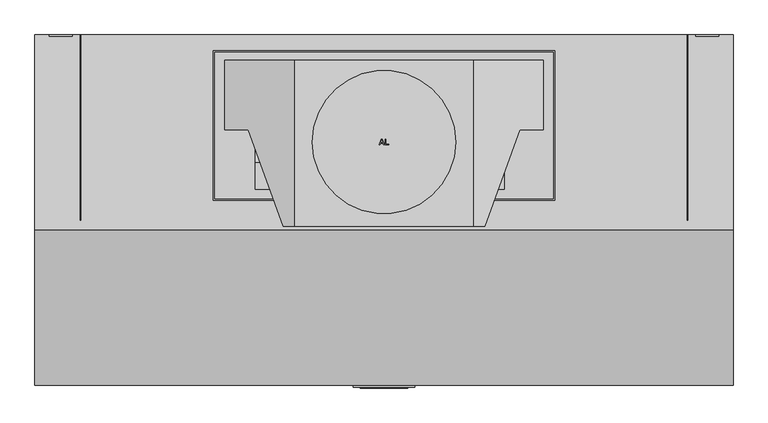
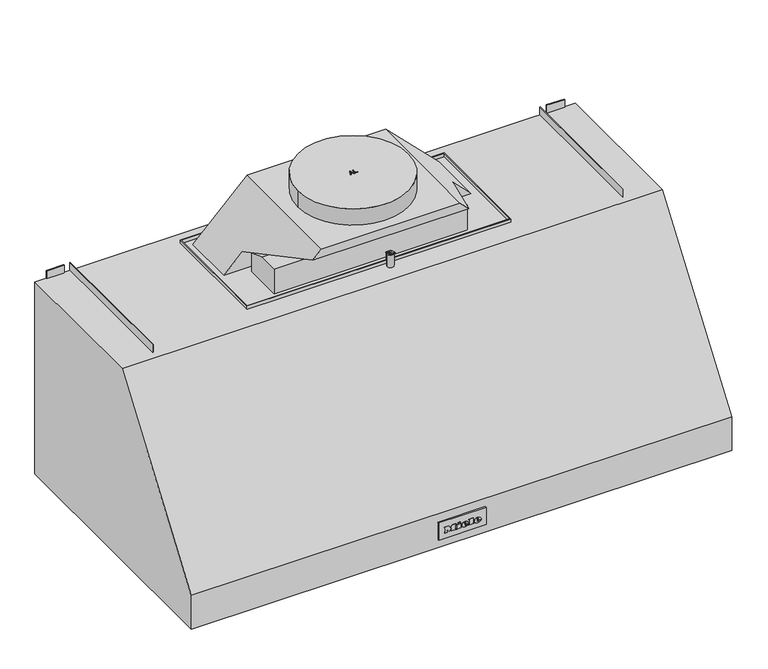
"""IFC4 building model written with IfcOpenShell, lengths in millimetres: proxy geometry, 11898190_USA_DAR1250-3_EDST : 28125051_USA_11898190_DAR1250-3_EDST."""

from ifc_helpers import new_model, si_unit, point, frame, frame_2d, origin, origin_with_axes, place, context, project, spatial, polyline, circle_curve, ellipse_curve, trimmed, segment, composite_curve, outline, extrude, faceted_brep, source, transform, mapped, element, save
from ifc_brep_helpers import plane_surface, cylinder_surface, revolved_surface, extruded_surface, advanced_brep


def specialty_equipment_2762908c(model_context):
    return source(origin(), model_context, "Body", "SolidModel", [
        extrude(outline(composite_curve([segment(trimmed(circle_curve(frame_2d((450.0, -510.0)), 27.5), [point((477.5, -510.0))], [point((422.5, -510.0))], False, "CARTESIAN"), True, "CONTINUOUS"), segment(trimmed(circle_curve(frame_2d((450.0, -510.0)), 27.5), [point((422.5, -510.0))], [point((477.5, -510.0))], False, "CARTESIAN"), True, "CONTINUOUS")], self_intersect=False)), origin_with_axes(), (0.0, 0.0, 1.0), 2.0),
        extrude(outline(composite_curve([segment(trimmed(circle_curve(frame_2d((-450.0, -510.0)), 27.5), [point((-422.5, -510.0))], [point((-477.5, -510.0))], False, "CARTESIAN"), True, "CONTINUOUS"), segment(trimmed(circle_curve(frame_2d((-450.0, -510.0)), 27.5), [point((-477.5, -510.0))], [point((-422.5, -510.0))], False, "CARTESIAN"), True, "CONTINUOUS")], self_intersect=False)), origin_with_axes(), (0.0, 0.0, 1.0), 2.0),
        extrude(outline(composite_curve([segment(trimmed(circle_curve(frame_2d((-450.0, -510.0)), 28.5), [point((-421.5, -510.0))], [point((-478.5, -510.0))], False, "CARTESIAN"), True, "CONTINUOUS"), segment(trimmed(circle_curve(frame_2d((-450.0, -510.0)), 28.5), [point((-478.5, -510.0))], [point((-421.5, -510.0))], False, "CARTESIAN"), True, "CONTINUOUS")], self_intersect=False), holes=[composite_curve([segment(trimmed(circle_curve(frame_2d((-450.0, -510.0)), 27.5), [point((-422.5, -510.0))], [point((-477.5, -510.0))], True, "CARTESIAN"), True, "CONTINUOUS"), segment(trimmed(circle_curve(frame_2d((-450.0, -510.0)), 27.5), [point((-477.5, -510.0))], [point((-422.5, -510.0))], True, "CARTESIAN"), True, "CONTINUOUS")], self_intersect=False)]), origin_with_axes(), (0.0, 0.0, 1.0), 2.0),
        extrude(outline(composite_curve([segment(trimmed(circle_curve(frame_2d((450.0, -510.0)), 28.5), [point((478.5, -510.0))], [point((421.5, -510.0))], False, "CARTESIAN"), True, "CONTINUOUS"), segment(trimmed(circle_curve(frame_2d((450.0, -510.0)), 28.5), [point((421.5, -510.0))], [point((478.5, -510.0))], False, "CARTESIAN"), True, "CONTINUOUS")], self_intersect=False), holes=[composite_curve([segment(trimmed(circle_curve(frame_2d((450.0, -510.0)), 27.5), [point((477.5, -510.0))], [point((422.5, -510.0))], True, "CARTESIAN"), True, "CONTINUOUS"), segment(trimmed(circle_curve(frame_2d((450.0, -510.0)), 27.5), [point((422.5, -510.0))], [point((477.5, -510.0))], True, "CARTESIAN"), True, "CONTINUOUS")], self_intersect=False)]), origin_with_axes(), (0.0, 0.0, 1.0), 2.0),
        extrude(outline(composite_curve([segment(trimmed(circle_curve(frame_2d((-150.0, -510.0)), 27.5), [point((-122.5, -510.0))], [point((-177.5, -510.0))], False, "CARTESIAN"), True, "CONTINUOUS"), segment(trimmed(circle_curve(frame_2d((-150.0, -510.0)), 27.5), [point((-177.5, -510.0))], [point((-122.5, -510.0))], False, "CARTESIAN"), True, "CONTINUOUS")], self_intersect=False)), origin_with_axes(), (0.0, 0.0, 1.0), 2.0),
        extrude(outline(composite_curve([segment(trimmed(circle_curve(frame_2d((150.0, -510.0)), 27.5), [point((177.5, -510.0))], [point((122.5, -510.0))], False, "CARTESIAN"), True, "CONTINUOUS"), segment(trimmed(circle_curve(frame_2d((150.0, -510.0)), 27.5), [point((122.5, -510.0))], [point((177.5, -510.0))], False, "CARTESIAN"), True, "CONTINUOUS")], self_intersect=False)), origin_with_axes(), (0.0, 0.0, 1.0), 2.0),
        extrude(outline(composite_curve([segment(trimmed(circle_curve(frame_2d((-150.0, -510.0)), 28.5), [point((-121.5, -510.0))], [point((-178.5, -510.0))], False, "CARTESIAN"), True, "CONTINUOUS"), segment(trimmed(circle_curve(frame_2d((-150.0, -510.0)), 28.5), [point((-178.5, -510.0))], [point((-121.5, -510.0))], False, "CARTESIAN"), True, "CONTINUOUS")], self_intersect=False), holes=[composite_curve([segment(trimmed(circle_curve(frame_2d((-150.0, -510.0)), 27.5), [point((-122.5, -510.0))], [point((-177.5, -510.0))], True, "CARTESIAN"), True, "CONTINUOUS"), segment(trimmed(circle_curve(frame_2d((-150.0, -510.0)), 27.5), [point((-177.5, -510.0))], [point((-122.5, -510.0))], True, "CARTESIAN"), True, "CONTINUOUS")], self_intersect=False)]), origin_with_axes(), (0.0, 0.0, 1.0), 2.0),
        extrude(outline(composite_curve([segment(trimmed(circle_curve(frame_2d((150.0, -510.0)), 28.5), [point((178.5, -510.0))], [point((121.5, -510.0))], False, "CARTESIAN"), True, "CONTINUOUS"), segment(trimmed(circle_curve(frame_2d((150.0, -510.0)), 28.5), [point((121.5, -510.0))], [point((178.5, -510.0))], False, "CARTESIAN"), True, "CONTINUOUS")], self_intersect=False), holes=[composite_curve([segment(trimmed(circle_curve(frame_2d((150.0, -510.0)), 27.5), [point((177.5, -510.0))], [point((122.5, -510.0))], True, "CARTESIAN"), True, "CONTINUOUS"), segment(trimmed(circle_curve(frame_2d((150.0, -510.0)), 27.5), [point((122.5, -510.0))], [point((177.5, -510.0))], True, "CARTESIAN"), True, "CONTINUOUS")], self_intersect=False)]), origin_with_axes(), (0.0, 0.0, 1.0), 2.0),
        extrude(outline(polyline([(-37.5, 0.0), (0.0, 0.0), (0.0, -344.0), (-37.5, -344.0), (-37.5, 0.0)])), frame((291.5, -320.2688445, 250.4179055), z_axis=(0.0, 0.6427876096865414, 0.7660444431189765), x_axis=(-1.0, 0.0, 0.0)), (0.0, 0.0, 1.0), 25.0),
        extrude(outline(polyline([(-87.0, 0.0), (-49.5, 0.0), (-49.5, -344.0), (-87.0, -344.0), (-87.0, 0.0)])), frame((291.5, -320.2688445, 250.4179055), z_axis=(0.0, 0.6427876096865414, 0.7660444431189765), x_axis=(-1.0, 0.0, 0.0)), (0.0, 0.0, 1.0), 25.0),
        extrude(outline(polyline([(-136.5, 0.0), (-99.0, 0.0), (-99.0, -344.0), (-136.5, -344.0), (-136.5, 0.0)])), frame((291.5, -320.2688445, 250.4179055), z_axis=(0.0, 0.6427876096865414, 0.7660444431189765), x_axis=(-1.0, 0.0, 0.0)), (0.0, 0.0, 1.0), 25.0),
        extrude(outline(polyline([(-186.0, 0.0), (-148.5, 0.0), (-148.5, -344.0), (-186.0, -344.0), (-186.0, 0.0)])), frame((291.5, -320.2688445, 250.4179055), z_axis=(0.0, 0.6427876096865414, 0.7660444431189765), x_axis=(-1.0, 0.0, 0.0)), (0.0, 0.0, 1.0), 25.0),
        extrude(outline(polyline([(-37.5, 0.0), (0.0, 0.0), (0.0, -344.0), (-37.5, -344.0), (-37.5, 0.0)])), frame((35.5, -320.2688445, 250.4179055), z_axis=(0.0, 0.6427876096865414, 0.7660444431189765), x_axis=(-1.0, 0.0, 0.0)), (0.0, 0.0, 1.0), 25.0),
        extrude(outline(polyline([(-87.0, 0.0), (-49.5, 0.0), (-49.5, -344.0), (-87.0, -344.0), (-87.0, 0.0)])), frame((35.5, -320.2688445, 250.4179055), z_axis=(0.0, 0.6427876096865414, 0.7660444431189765), x_axis=(-1.0, 0.0, 0.0)), (0.0, 0.0, 1.0), 25.0),
        extrude(outline(polyline([(-136.5, 0.0), (-99.0, 0.0), (-99.0, -344.0), (-136.5, -344.0), (-136.5, 0.0)])), frame((35.5, -320.2688445, 250.4179055), z_axis=(0.0, 0.6427876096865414, 0.7660444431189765), x_axis=(-1.0, 0.0, 0.0)), (0.0, 0.0, 1.0), 25.0),
        extrude(outline(polyline([(-186.0, 0.0), (-148.5, 0.0), (-148.5, -344.0), (-186.0, -344.0), (-186.0, 0.0)])), frame((35.5, -320.2688445, 250.4179055), z_axis=(0.0, 0.6427876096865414, 0.7660444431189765), x_axis=(-1.0, 0.0, 0.0)), (0.0, 0.0, 1.0), 25.0),
        extrude(outline(polyline([(0.0, 0.0), (37.5, 0.0), (37.5, -344.0), (0.0, -344.0), (0.0, 0.0)])), frame((-476.5, -56.7495561, 29.2989677), z_axis=(0.0, 0.6427876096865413, 0.7660444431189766), x_axis=(1.0, 0.0, 0.0)), (0.0, 0.0, 1.0), 25.0),
        extrude(outline(polyline([(87.0, -344.0), (49.5, -344.0), (49.5, 0.0), (87.0, 0.0), (87.0, -344.0)])), frame((-476.5, -56.7495561, 29.2989677), z_axis=(0.0, 0.6427876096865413, 0.7660444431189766), x_axis=(1.0, 0.0, 0.0)), (0.0, 0.0, 1.0), 25.0),
        extrude(outline(polyline([(136.5, -344.0), (99.0, -344.0), (99.0, 0.0), (136.5, 0.0), (136.5, -344.0)])), frame((-476.5, -56.7495561, 29.2989677), z_axis=(0.0, 0.6427876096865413, 0.7660444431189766), x_axis=(1.0, 0.0, 0.0)), (0.0, 0.0, 1.0), 25.0),
        extrude(outline(polyline([(186.0, -344.0), (148.5, -344.0), (148.5, 0.0), (186.0, 0.0), (186.0, -344.0)])), frame((-476.5, -56.7495561, 29.2989677), z_axis=(0.0, 0.6427876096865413, 0.7660444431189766), x_axis=(1.0, 0.0, 0.0)), (0.0, 0.0, 1.0), 25.0),
        extrude(outline(polyline([(256.0, 0.0), (293.5, 0.0), (293.5, -344.0), (256.0, -344.0), (256.0, 0.0)])), frame((-476.5, -56.7495561, 29.2989677), z_axis=(0.0, 0.6427876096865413, 0.7660444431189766), x_axis=(1.0, 0.0, 0.0)), (0.0, 0.0, 1.0), 25.0),
        extrude(outline(polyline([(343.0, -344.0), (305.5, -344.0), (305.5, 0.0), (343.0, 0.0), (343.0, -344.0)])), frame((-476.5, -56.7495561, 29.2989677), z_axis=(0.0, 0.6427876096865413, 0.7660444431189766), x_axis=(1.0, 0.0, 0.0)), (0.0, 0.0, 1.0), 25.0),
        extrude(outline(polyline([(392.5, -344.0), (355.0, -344.0), (355.0, 0.0), (392.5, 0.0), (392.5, -344.0)])), frame((-476.5, -56.7495561, 29.2989677), z_axis=(0.0, 0.6427876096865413, 0.7660444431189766), x_axis=(1.0, 0.0, 0.0)), (0.0, 0.0, 1.0), 25.0),
        extrude(outline(polyline([(442.0, -344.0), (404.5, -344.0), (404.5, 0.0), (442.0, 0.0), (442.0, -344.0)])), frame((-476.5, -56.7495561, 29.2989677), z_axis=(0.0, 0.6427876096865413, 0.7660444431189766), x_axis=(1.0, 0.0, 0.0)), (0.0, 0.0, 1.0), 25.0),
        extrude(outline(polyline([(256.0, 0.0), (256.0, -380.0), (0.0, -380.0), (0.0, 0.0), (256.0, 0.0)]), holes=[polyline([(238.0, -360.0), (238.0, -16.0), (18.0, -16.0), (18.0, -360.0), (238.0, -360.0)])]), frame((256.5, -44.492845, 19.014366), z_axis=(0.0, 0.6427876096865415, 0.7660444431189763), x_axis=(1.0, 0.0, 0.0)), (0.0, 0.0, 1.0), 25.0),
        extrude(outline(polyline([(256.0, 0.0), (256.0, -380.0), (0.0, -380.0), (0.0, 0.0), (256.0, 0.0)]), holes=[polyline([(238.0, -360.0), (238.0, -16.0), (18.0, -16.0), (18.0, -360.0), (238.0, -360.0)])]), frame((0.5, -44.492845, 19.014366), z_axis=(0.0, 0.6427876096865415, 0.7660444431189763), x_axis=(1.0, 0.0, 0.0)), (0.0, 0.0, 1.0), 25.0),
        extrude(outline(polyline([(0.0, -380.0), (0.0, 0.0), (256.0, 0.0), (256.0, -380.0), (0.0, -380.0)]), holes=[polyline([(18.0, -20.0), (18.0, -364.0000001), (238.0, -364.0000001), (238.0, -20.0), (18.0, -20.0)])]), frame((0.5, -335.5897334, 263.2736577), z_axis=(0.0, 0.6427876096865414, 0.7660444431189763), x_axis=(-1.0, 0.0, 0.0)), (0.0, 0.0, 1.0), 25.0),
        extrude(outline(polyline([(256.0, 0.0), (256.0, -380.0), (0.0, -380.0), (0.0, 0.0), (256.0, 0.0)]), holes=[polyline([(238.0, -359.904685), (238.0, -16.0), (18.0, -16.0), (18.0, -359.904685), (238.0, -359.904685)])]), frame((-511.5, -44.492845, 19.014366), z_axis=(0.0, 0.6427876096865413, 0.7660444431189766), x_axis=(1.0, 0.0, 0.0)), (0.0, 0.0, 1.0), 25.0),
        extrude(outline(polyline([(0.0, -32.0), (0.0, 0.0), (1026.0, 0.0), (1026.0, -32.0), (0.0, -32.0)])), frame((513.0, -54.2049091, 24.5529408), z_axis=(0.0, 0.6427876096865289, 0.7660444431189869), x_axis=(-1.0, 0.0, 0.0)), (0.0, 0.0, 1.0), 2.0),
        extrude(outline(composite_curve([segment(polyline([(-611.0, 60.5), (-611.0, 19.5), (-614.4897588, 19.5)]), True, "CONTINUOUS"), segment(trimmed(circle_curve(frame_2d((-407.0, 40.0)), 208.5), [point((-614.4897588, 19.5))], [point((-614.4897588, 60.5))], False, "CARTESIAN"), True, "CONTINUOUS"), segment(polyline([(-614.4897588, 60.5), (-611.0, 60.5)]), True, "CONTINUOUS")], self_intersect=False)), frame((-53.5, 0.0, 0.0), z_axis=(1.0, 0.0, 0.0), x_axis=(0.0, 1.0, 0.0)), (0.0, 0.0, 1.0), 107.0),
        extrude(outline(polyline([(-4.5372377, -181.9543211), (-3.4679056, -181.9543211), (0.5443291, -192.0074933), (-0.78117, -192.0074933), (-1.9464171, -188.8644809), (-6.0741019, -188.8644809), (-7.2153963, -192.0001615), (-8.5495657, -192.0001615), (-4.5372377, -181.9543211)]), holes=[polyline([(-5.6034113, -187.6023847), (-2.3954067, -187.6023847), (-4.0065067, -183.2149252), (-5.6034113, -187.6023847)])]), frame((0.0, 0.0, 619.0), z_axis=(0.0, 0.0, 1.0), x_axis=(1.0, 0.0, 0.0)), (0.0, 0.0, 1.0), 1.0),
        extrude(outline(polyline([(1.8811446, -192.000493), (1.8811446, -181.9526593), (3.1591519, -181.9526593), (3.1591519, -190.7381821), (8.1591519, -190.7381821), (8.1591519, -192.000493), (1.8811446, -192.000493)])), frame((0.0, 0.0, 619.0), z_axis=(0.0, 0.0, 1.0), x_axis=(1.0, 0.0, 0.0)), (0.0, 0.0, 1.0), 1.0),
        extrude(outline(polyline([(12.618401, -292.9519593), (19.854777, -292.9519593), (19.854777, -294.2111209), (13.8792364, -294.2111209), (13.8792364, -297.1924894), (19.5282155, -297.1924894), (19.5282155, -298.4490469), (13.881595, -298.4490469), (13.881595, -301.7405445), (20.0030995, -301.7405445), (20.0030995, -303.0025662), (12.618401, -303.0025662), (12.618401, -292.9519593)])), frame((0.0, 0.0, 487.0), z_axis=(0.0, 0.0, 1.0), x_axis=(1.0, 0.0, 0.0)), (0.0, 0.0, 1.0), 1.0),
        extrude(outline(polyline([(21.8808706, -303.001043), (21.8808706, -292.9502196), (23.1543386, -292.9502196), (23.1543386, -301.7343453), (28.1543386, -301.7343453), (28.1543386, -303.001043), (21.8808706, -303.001043)])), frame((0.0, 0.0, 487.0), z_axis=(0.0, 0.0, 1.0), x_axis=(1.0, 0.0, 0.0)), (0.0, 0.0, 1.0), 1.0),
        extrude(outline(composite_curve([segment(trimmed(circle_curve(frame_2d((20.0, -298.0)), 7.5), [point((27.5, -298.0))], [point((12.5, -298.0))], False, "CARTESIAN"), True, "CONTINUOUS"), segment(trimmed(circle_curve(frame_2d((20.0, -298.0)), 7.5), [point((12.5, -298.0))], [point((27.5, -298.0))], False, "CARTESIAN"), True, "CONTINUOUS")], self_intersect=False)), frame((0.0, 0.0, 457.0), z_axis=(0.0, 0.0, 1.0), x_axis=(1.0, 0.0, 0.0)), (0.0, 0.0, 1.0), 30.0),
        advanced_brep(
        [(609.0, -340.0, 457.0), (609.0, -611.0, 80.0), (609.0, -611.0, 0.0), (609.0, 0.0, 0.0), (609.0, 0.0, 457.0), (-609.0, -340.0, 457.0), (-609.0, 0.0, 457.0), (-609.0, 0.0, 0.0), (-609.0, -611.0, 0.0), (-609.0, -611.0, 80.0), (548.0, -440.0, 0.0), (548.0, -28.0, 0.0), (-548.0, -28.0, 0.0), (-548.0, -440.0, 0.0), (368.0, -554.0, 0.0), (368.0, -466.0, 0.0), (232.0, -466.0, 0.0), (232.0, -554.0, 0.0), (-121.0, -510.0, 0.0), (-179.0, -510.0, 0.0), (179.0, -510.0, 0.0), (121.0, -510.0, 0.0), (-421.0, -510.0, 0.0), (-479.0, -510.0, 0.0), (479.0, -510.0, 0.0), (421.0, -510.0, 0.0), (548.0, -440.0, 176.0), (548.0, -346.5798495, 321.3202342), (548.0, -28.0, 54.0), (-548.0, -28.0, 54.0), (-548.0, -346.5798495, 321.3202342), (-548.0, -440.0, 176.0), (368.0, -528.8270111, 30.0), (368.0, -521.4256258, 32.0), (232.0, -528.8270111, 30.0), (232.0, -521.4256258, 32.0), (-121.0, -510.0, 5.0), (-179.0, -510.0, 5.0), (179.0, -510.0, 5.0), (121.0, -510.0, 5.0), (-421.0, -510.0, 5.0), (-479.0, -510.0, 5.0), (479.0, -510.0, 5.0), (421.0, -510.0, 5.0)],
        [
            (0, 1),
            (1, 2),
            (2, 3),
            (3, 4),
            (4, 0),
            (5, 6),
            (6, 7),
            (7, 8),
            (8, 9),
            (9, 5),
            (1, 9),
            (8, 2),
            (7, 3),
            (10, 11),
            (11, 12),
            (12, 13),
            (13, 10),
            (14, 15),
            (15, 16),
            (16, 17),
            (17, 14),
            (18, 19, circle_curve(frame((-150.0, -510.0, 0.0), z_axis=(0.0, 0.0, 1.0), x_axis=(-1.0, 0.0, 0.0)), 29.0)),
            (19, 18, circle_curve(frame((-150.0, -510.0, 0.0), z_axis=(0.0, 0.0, 1.0), x_axis=(-1.0, 0.0, 0.0)), 29.0)),
            (20, 21, circle_curve(frame((150.0, -510.0, 0.0), z_axis=(0.0, 0.0, 1.0), x_axis=(-1.0, 0.0, 0.0)), 29.0)),
            (21, 20, circle_curve(frame((150.0, -510.0, 0.0), z_axis=(0.0, 0.0, 1.0), x_axis=(-1.0, 0.0, 0.0)), 29.0)),
            (22, 23, circle_curve(frame((-450.0, -510.0, 0.0), z_axis=(0.0, 0.0, 1.0), x_axis=(-1.0, 0.0, 0.0)), 29.0)),
            (23, 22, circle_curve(frame((-450.0, -510.0, 0.0), z_axis=(0.0, 0.0, 1.0), x_axis=(-1.0, 0.0, 0.0)), 29.0)),
            (24, 25, circle_curve(frame((450.0, -510.0, 0.0), z_axis=(0.0, 0.0, 1.0), x_axis=(-1.0, 0.0, 0.0)), 29.0)),
            (25, 24, circle_curve(frame((450.0, -510.0, 0.0), z_axis=(0.0, 0.0, 1.0), x_axis=(-1.0, 0.0, 0.0)), 29.0)),
            (6, 4),
            (5, 0),
            (10, 26),
            (26, 27),
            (27, 28),
            (28, 11),
            (12, 29),
            (29, 30),
            (30, 31),
            (31, 13),
            (28, 29),
            (32, 33, circle_curve(frame((368.0, -523.6917155, 25.6909754), z_axis=(-1.0, 0.0, 0.0), x_axis=(0.0, -1.0, 0.0)), 6.7036523)),
            (33, 15),
            (14, 32),
            (34, 17),
            (16, 35),
            (35, 34, circle_curve(frame((232.0, -523.6917155, 25.6909754), z_axis=(1.0, 0.0, 0.0), x_axis=(0.0, -1.0, 0.0)), 6.7036523)),
            (34, 32),
            (33, 35),
            (26, 31),
            (30, 27),
            (36, 37, circle_curve(frame((-150.0, -510.0, 5.0), z_axis=(0.0, 0.0, -1.0), x_axis=(-1.0, 0.0, 0.0)), 29.0)),
            (37, 36, circle_curve(frame((-150.0, -510.0, 5.0), z_axis=(0.0, 0.0, -1.0), x_axis=(-1.0, 0.0, 0.0)), 29.0)),
            (38, 39, circle_curve(frame((150.0, -510.0, 5.0), z_axis=(0.0, 0.0, -1.0), x_axis=(-1.0, 0.0, 0.0)), 29.0)),
            (39, 38, circle_curve(frame((150.0, -510.0, 5.0), z_axis=(0.0, 0.0, -1.0), x_axis=(-1.0, 0.0, 0.0)), 29.0)),
            (37, 19),
            (18, 36),
            (39, 21),
            (20, 38),
            (40, 41, circle_curve(frame((-450.0, -510.0, 5.0), z_axis=(0.0, 0.0, -1.0), x_axis=(-1.0, 0.0, 0.0)), 29.0)),
            (41, 40, circle_curve(frame((-450.0, -510.0, 5.0), z_axis=(0.0, 0.0, -1.0), x_axis=(-1.0, 0.0, 0.0)), 29.0)),
            (42, 43, circle_curve(frame((450.0, -510.0, 5.0), z_axis=(0.0, 0.0, -1.0), x_axis=(-1.0, 0.0, 0.0)), 29.0)),
            (43, 42, circle_curve(frame((450.0, -510.0, 5.0), z_axis=(0.0, 0.0, -1.0), x_axis=(-1.0, 0.0, 0.0)), 29.0)),
            (41, 23),
            (22, 40),
            (43, 25),
            (24, 42),
        ],
        [
            plane_surface(frame((609.0, -611.0, 80.0), z_axis=(1.0, 0.0, 0.0), x_axis=(0.0, -0.5836804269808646, -0.8119834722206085))),
            plane_surface(frame((-609.0, -611.0, 80.0), z_axis=(-1.0, 0.0, 0.0), x_axis=(0.0, 0.5836804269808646, 0.8119834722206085))),
            plane_surface(frame((609.0, -611.0, 80.0), z_axis=(0.0, -1.0, 0.0), x_axis=(-1.0, 0.0, 0.0))),
            plane_surface(frame((609.0, -611.0, 0.0), z_axis=(0.0, 0.0, -1.0), x_axis=(-1.0, 0.0, 0.0))),
            plane_surface(frame((609.0, 0.0, 0.0), z_axis=(0.0, 1.0, 0.0), x_axis=(-1.0, 0.0, 0.0))),
            plane_surface(frame((609.0, 0.0, 457.0), z_axis=(0.0, 0.0, 1.0), x_axis=(-1.0, 0.0, 0.0))),
            plane_surface(frame((609.0, -340.0, 457.0), z_axis=(0.0, -0.8119834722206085, 0.5836804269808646), x_axis=(-1.0, 0.0, 0.0))),
            plane_surface(frame((548.0, -440.0, 0.0), z_axis=(-1.0, 0.0, 0.0), x_axis=(0.0, 1.0, 0.0))),
            plane_surface(frame((-548.0, -440.0, 0.0), z_axis=(1.0, 0.0, 0.0), x_axis=(0.0, -1.0, 0.0))),
            plane_surface(frame((-548.0, -28.0, 54.0), z_axis=(0.0, -1.0, 0.0), x_axis=(1.0, 0.0, 0.0))),
            plane_surface(frame((368.0, -530.3953678, 25.6909754), z_axis=(-1.0, 0.0, 0.0), x_axis=(0.0, 0.0, -1.0))),
            plane_surface(frame((232.0, -530.3953678, 25.6909754), z_axis=(1.0, 0.0, 0.0), x_axis=(0.0, 0.0, 1.0))),
            plane_surface(frame((232.0, -554.0, 0.0), z_axis=(0.0, 0.7660444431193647, -0.6427876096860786), x_axis=(1.0, 0.0, 0.0))),
            plane_surface(frame((232.0, -521.4256258, 32.0), z_axis=(0.0, -0.5000000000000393, -0.8660254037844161), x_axis=(1.0, 0.0, 0.0))),
            plane_surface(frame((-548.0, -440.0, 176.0), z_axis=(0.0, 0.8411784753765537, -0.5407575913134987), x_axis=(1.0, 0.0, 0.0))),
            plane_surface(frame((-548.0, -440.0, 0.0), z_axis=(0.0, 1.0, 0.0), x_axis=(1.0, 0.0, 0.0))),
            revolved_surface(polyline([(232.0, -530.3953678, 25.6909754), (368.0, -530.3953678, 25.6909754)]), (368.0, -523.6917155, 25.6909754), (-1.0, 0.0, 0.0)),
            plane_surface(frame((-548.0, -346.5798495, 321.3202342), z_axis=(0.0, -0.642787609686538, -0.7660444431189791), x_axis=(1.0, 0.0, 0.0))),
            plane_surface(frame((-179.0, -510.0, 5.0), z_axis=(0.0, 0.0, -1.0), x_axis=(0.0, -1.0, 0.0))),
            revolved_surface(polyline([(-179.0, -510.0, 5.0), (-179.0, -510.0, 0.0)]), (-150.0, -510.0, 0.0), (0.0, 0.0, 1.0)),
            revolved_surface(polyline([(121.0, -510.0, 5.0), (121.0, -510.0, 0.0)]), (150.0, -510.0, 0.0), (0.0, 0.0, 1.0)),
            plane_surface(frame((-479.0, -510.0, 5.0), z_axis=(0.0, 0.0, -1.0), x_axis=(0.0, -1.0, 0.0))),
            revolved_surface(polyline([(-479.0, -510.0, 5.0), (-479.0, -510.0, 0.0)]), (-450.0, -510.0, 0.0), (0.0, 0.0, 1.0)),
            revolved_surface(polyline([(421.0, -510.0, 5.0), (421.0, -510.0, 0.0)]), (450.0, -510.0, 0.0), (0.0, 0.0, 1.0)),
        ],
        [
            (0, [[1, 2, 3, 4, 5]]),
            (1, [[6, 7, 8, 9, 10]]),
            (2, [[-2, 11, -9, 12]]),
            (3, [[-3, -12, -8, 13], [14, 15, 16, 17], [18, 19, 20, 21], [22, 23], [24, 25], [26, 27], [28, 29]]),
            (4, [[-4, -13, -7, 30]]),
            (5, [[-5, -30, -6, 31]]),
            (6, [[-1, -31, -10, -11]]),
            (7, [[32, 33, 34, 35, -14]]),
            (8, [[36, 37, 38, 39, -16]]),
            (9, [[-35, 40, -36, -15]]),
            (10, [[41, 42, -18, 43]]),
            (11, [[44, -20, 45, 46]]),
            (12, [[-43, -21, -44, 47]]),
            (13, [[-42, 48, -45, -19]]),
            (14, [[-33, 49, -38, 50]]),
            (15, [[-32, -17, -39, -49]]),
            (16, [[-41, -47, -46, -48]]),
            (17, [[-34, -50, -37, -40]]),
            (18, [[51, 52]]),
            (18, [[53, 54]]),
            (19, [[-52, 55, -22, 56]]),
            (19, [[-51, -56, -23, -55]]),
            (20, [[-54, 57, -24, 58]]),
            (20, [[-53, -58, -25, -57]]),
            (21, [[59, 60]]),
            (21, [[61, 62]]),
            (22, [[-60, 63, -26, 64]]),
            (22, [[-59, -64, -27, -63]]),
            (23, [[-62, 65, -28, 66]]),
            (23, [[-61, -66, -29, -65]]),
        ],
    ),
        extrude(outline(polyline([(-544.0, 0.0), (-544.0, -2.0), (-584.0, -2.0), (-584.0, 0.0), (-544.0, 0.0)])), frame((0.0, 0.0, 457.0), z_axis=(0.0, 0.0, 1.0), x_axis=(1.0, 0.0, 0.0)), (0.0, 0.0, 1.0), 19.0),
        extrude(outline(polyline([(544.0, 0.0), (584.0, 0.0), (584.0, -2.0), (544.0, -2.0), (544.0, 0.0)])), frame((0.0, 0.0, 457.0), z_axis=(0.0, 0.0, 1.0), x_axis=(1.0, 0.0, 0.0)), (0.0, 0.0, 1.0), 19.0),
        extrude(outline(polyline([(-529.0, 0.0), (-529.0, -323.0), (-530.0, -323.0), (-530.0, 0.0), (-529.0, 0.0)])), frame((0.0, 0.0, 457.0), z_axis=(0.0, 0.0, 1.0), x_axis=(1.0, 0.0, 0.0)), (0.0, 0.0, 1.0), 19.0),
        extrude(outline(polyline([(529.0, 0.0), (530.0, 0.0), (530.0, -323.0), (529.0, -323.0), (529.0, 0.0)])), frame((0.0, 0.0, 457.0), z_axis=(0.0, 0.0, 1.0), x_axis=(1.0, 0.0, 0.0)), (0.0, 0.0, 1.0), 19.0),
        extrude(outline(polyline([(297.5, -28.0), (297.5, -288.0), (-297.5, -288.0), (-297.5, -28.0), (297.5, -28.0)]), holes=[polyline([(295.5, -30.0), (-295.5, -30.0), (-295.5, -286.0), (295.5, -286.0), (295.5, -30.0)])]), frame((0.0, 0.0, 457.0), z_axis=(0.0, 0.0, 1.0), x_axis=(1.0, 0.0, 0.0)), (0.0, 0.0, 1.0), 8.0),
        faceted_brep([(156.0, -44.0, 580.0), (-156.0, -44.0, 580.0), (-156.0, -334.0, 580.0), (156.0, -334.0, 580.0), (-279.0, -44.0, 457.0), (279.0, -44.0, 457.0), (279.0, -165.0, 457.0), (-279.0, -165.0, 457.0), (-175.4890304, -334.0, 560.5109696), (175.4890304, -334.0, 560.5109696), (-237.0, -165.0, 499.0), (237.0, -165.0, 499.0)], [[[0, 1, 2, 3]], [[4, 5, 6, 7]], [[5, 4, 1, 0]], [[3, 2, 8, 9]], [[9, 8, 10, 11]], [[7, 6, 11, 10]], [[2, 1, 4, 7, 10, 8]], [[0, 3, 9, 11, 6, 5]]]),
        extrude(outline(polyline([(-181.0, 457.0), (-269.0, 457.0), (-269.0, 517.0), (-223.0, 517.0), (-181.0, 501.7132502), (-181.0, 457.0)])), frame((-225.0, 0.0, 0.0), z_axis=(1.0, 0.0, 0.0), x_axis=(0.0, 1.0, 0.0)), (0.0, 0.0, 1.0), 435.0),
        extrude(outline(composite_curve([segment(trimmed(circle_curve(frame_2d((0.0, -187.0)), 125.0), [point((125.0, -187.0))], [point((-125.0, -187.0))], False, "CARTESIAN"), True, "CONTINUOUS"), segment(trimmed(circle_curve(frame_2d((0.0, -187.0)), 125.0), [point((-125.0, -187.0))], [point((125.0, -187.0))], False, "CARTESIAN"), True, "CONTINUOUS")], self_intersect=False)), frame((0.0, 0.0, 580.0), z_axis=(0.0, 0.0, 1.0), x_axis=(1.0, 0.0, 0.0)), (0.0, 0.0, 1.0), 39.0),
        extrude(outline(polyline([(-365.0027283, 292.6624227), (-346.5798495, 321.3202342), (-314.6821741, 294.5549065), (-339.9408614, 271.6330194), (-365.0027283, 292.6624227)])), frame((-514.0, 0.0, 0.0), z_axis=(1.0, 0.0, 0.0), x_axis=(0.0, 1.0, 0.0)), (0.0, 0.0, 1.0), 1028.0),
        extrude(outline(polyline([(-28.0, 10.0), (-364.9541024, 292.738063), (-346.5798495, 321.3202342), (-28.0, 54.0), (-28.0, 10.0)])), frame((514.0, 0.0, 0.0), z_axis=(1.0, 0.0, 0.0), x_axis=(0.0, 1.0, 0.0)), (0.0, 0.0, 1.0), 34.0),
        extrude(outline(polyline([(-346.5798495, 321.3202342), (-28.0, 54.0), (-28.0, 10.0), (-364.9541024, 292.738063), (-346.5798495, 321.3202342)])), frame((-548.0, 0.0, 0.0), z_axis=(1.0, 0.0, 0.0), x_axis=(0.0, 1.0, 0.0)), (0.0, 0.0, 1.0), 34.0),
        extrude(outline(composite_curve([segment(polyline([(-37.1483512, 0.0), (0.0, 0.0)]), True, "CONTINUOUS"), segment(trimmed(circle_curve(frame_2d((-18.5741756, -4.0)), 19.0), [point((0.0, 0.0))], [point((0.4258244, -4.0))], False, "CARTESIAN"), True, "CONTINUOUS"), segment(trimmed(circle_curve(frame_2d((-18.5741756, -4.0)), 19.0), [point((0.4258244, -4.0))], [point((0.0, -8.0))], False, "CARTESIAN"), True, "CONTINUOUS"), segment(polyline([(0.0, -8.0), (-37.1483512, -8.0)]), True, "CONTINUOUS"), segment(trimmed(circle_curve(frame_2d((-18.5741756, -4.0)), 19.0), [point((-37.1483512, -8.0))], [point((-37.5741756, -4.0))], False, "CARTESIAN"), True, "CONTINUOUS"), segment(trimmed(circle_curve(frame_2d((-18.5741756, -4.0)), 19.0), [point((-37.5741756, -4.0))], [point((-37.1483512, 0.0))], False, "CARTESIAN"), True, "CONTINUOUS")], self_intersect=False)), frame((261.0000858, -493.7462424, -8.2819697), z_axis=(0.0, 0.4999999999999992, 0.8660254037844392), x_axis=(0.0, 0.8660254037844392, -0.4999999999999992)), (0.0, 0.0, 1.0), 13.0),
        extrude(outline(composite_curve([segment(polyline([(0.2191566, -77.9999142), (-36.9291946, -77.9999142)]), True, "CONTINUOUS"), segment(trimmed(circle_curve(frame_2d((-18.3550191, -73.9999142)), 19.0), [point((-36.9291946, -77.9999142))], [point((-37.355019, -73.9999142))], False, "CARTESIAN"), True, "CONTINUOUS"), segment(trimmed(circle_curve(frame_2d((-18.3550191, -73.9999142)), 19.0), [point((-37.355019, -73.9999142))], [point((-36.9291946, -69.9999142))], False, "CARTESIAN"), True, "CONTINUOUS"), segment(polyline([(-36.9291946, -69.9999142), (0.2191566, -69.9999142)]), True, "CONTINUOUS"), segment(trimmed(circle_curve(frame_2d((-18.3550191, -73.9999142)), 19.0), [point((0.2191566, -69.9999142))], [point((0.644981, -73.9999142))], False, "CARTESIAN"), True, "CONTINUOUS"), segment(trimmed(circle_curve(frame_2d((-18.3550191, -73.9999142)), 19.0), [point((0.644981, -73.9999142))], [point((0.2191566, -77.9999142))], False, "CARTESIAN"), True, "CONTINUOUS")], self_intersect=False)), frame((261.0000858, -493.7462424, -8.2819697), z_axis=(0.0, 0.4999999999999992, 0.8660254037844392), x_axis=(0.0, 0.8660254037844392, -0.4999999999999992)), (0.0, 0.0, 1.0), 13.0),
        extrude(outline(composite_curve([segment(trimmed(circle_curve(frame_2d((0.0, -19.0)), 19.0), [point((0.0, -38.0))], [point((0.0, 0.0))], False, "CARTESIAN"), True, "CONTINUOUS"), segment(trimmed(circle_curve(frame_2d((0.0, -19.0)), 19.0), [point((0.0, 0.0))], [point((0.0, -38.0))], False, "CARTESIAN"), True, "CONTINUOUS")], self_intersect=False)), frame((265.0000858, -519.786433, 21.7634484), z_axis=(0.0, 0.4999999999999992, 0.8660254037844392), x_axis=(-1.0, 0.0, 0.0)), (0.0, 0.0, 1.0), 8.0),
        extrude(outline(composite_curve([segment(trimmed(circle_curve(frame_2d((-69.9999142, -19.2191566)), 19.0), [point((-69.9999142, -38.2191566))], [point((-69.9999142, -0.2191566))], False, "CARTESIAN"), True, "CONTINUOUS"), segment(trimmed(circle_curve(frame_2d((-69.9999142, -19.2191566)), 19.0), [point((-69.9999142, -0.2191566))], [point((-69.9999142, -38.2191566))], False, "CARTESIAN"), True, "CONTINUOUS")], self_intersect=False)), frame((265.0000858, -519.786433, 21.7634484), z_axis=(0.0, 0.4999999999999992, 0.8660254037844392), x_axis=(-1.0, 0.0, 0.0)), (0.0, 0.0, 1.0), 8.0),
        advanced_brep(
        [(32.17, -616.0, 36.1995), (32.17, -616.0, 37.563), (41.2015, -616.0, 37.563), (25.4875, -616.0, 37.563), (29.2, -616.0, 33.0), (40.972, -616.0, 36.1995), (36.895, -616.0, 36.1995), (33.682, -616.0, 34.6875), (32.17, -616.0, 39.291), (32.17, -616.0, 40.7625), (34.4785, -616.0, 40.7625), (34.4785, -616.0, 39.291), (32.17, -615.0, 36.1995), (33.682, -615.0, 34.6875), (36.895, -615.0, 36.1995), (40.972, -615.0, 36.1995), (29.2, -615.0, 33.0), (25.4875, -615.0, 37.563), (41.2015, -615.0, 37.563), (32.17, -615.0, 37.563), (32.17, -615.0, 39.291), (34.4785, -615.0, 39.291), (34.4785, -615.0, 40.7625), (32.17, -615.0, 40.7625)],
        [
            (0, 1),
            (1, 2),
            (2, 3, ellipse_curve(frame((33.3445, -616.0, 37.563), z_axis=(0.0, -1.0, 0.0), x_axis=(-1.0, 0.0, 0.0)), 7.857, 6.4935)),
            (3, 4, circle_curve(frame((30.7120736, -616.0, 38.022), z_axis=(0.0, -1.0, 0.0), x_axis=(0.0, 0.0, -1.0)), 5.2446974)),
            (4, 5, circle_curve(frame((33.1872142, -616.0, 41.586), z_axis=(0.0, -1.0, 0.0), x_axis=(0.0, 0.0, -1.0)), 9.46664)),
            (5, 6),
            (6, 7, circle_curve(frame((34.3419118, -616.0, 37.455), z_axis=(0.0, 1.0, 0.0), x_axis=(0.0, 0.0, -1.0)), 2.8450905)),
            (7, 0, circle_curve(frame((33.682, -616.0, 36.1995), z_axis=(0.0, 1.0, 0.0), x_axis=(0.0, 0.0, -1.0)), 1.512)),
            (8, 9),
            (9, 10, circle_curve(frame((33.32425, -616.0, 40.7625), z_axis=(0.0, 1.0, 0.0), x_axis=(0.0, 0.0, -1.0)), 1.15425)),
            (10, 11),
            (11, 8),
            (12, 13, circle_curve(frame((33.682, -615.0, 36.1995), z_axis=(0.0, -1.0, 0.0), x_axis=(0.0, 0.0, -1.0)), 1.512)),
            (13, 14, circle_curve(frame((34.3419118, -615.0, 37.455), z_axis=(0.0, -1.0, 0.0), x_axis=(0.0, 0.0, -1.0)), 2.8450905)),
            (14, 15),
            (15, 16, circle_curve(frame((33.1872142, -615.0, 41.586), z_axis=(0.0, 1.0, 0.0), x_axis=(0.0, 0.0, -1.0)), 9.46664)),
            (16, 17, circle_curve(frame((30.7120736, -615.0, 38.022), z_axis=(0.0, 1.0, 0.0), x_axis=(0.0, 0.0, -1.0)), 5.2446974)),
            (17, 18, ellipse_curve(frame((33.3445, -615.0, 37.563), z_axis=(0.0, 1.0, 0.0), x_axis=(-1.0, 0.0, 0.0)), 7.857, 6.4935)),
            (18, 19),
            (19, 12),
            (20, 21),
            (21, 22),
            (22, 23, circle_curve(frame((33.32425, -615.0, 40.7625), z_axis=(0.0, -1.0, 0.0), x_axis=(0.0, 0.0, -1.0)), 1.15425)),
            (23, 20),
            (0, 12),
            (19, 1),
            (18, 2),
            (5, 15),
            (14, 6),
            (17, 3),
            (13, 7),
            (16, 4),
            (8, 20),
            (23, 9),
            (22, 10),
            (21, 11),
        ],
        [
            plane_surface(frame((32.17, -616.0, 37.563), z_axis=(0.0, -1.0, 0.0), x_axis=(0.0, 0.0, 1.0))),
            plane_surface(frame((32.17, -615.0, 37.563), z_axis=(0.0, 1.0, 0.0), x_axis=(0.0, 0.0, -1.0))),
            plane_surface(frame((32.17, -616.0, 36.1995), z_axis=(1.0, 0.0, 0.0), x_axis=(0.0, 1.0, 0.0))),
            plane_surface(frame((32.17, -616.0, 37.563), z_axis=(0.0, 0.0, -1.0), x_axis=(0.0, 1.0, 0.0))),
            plane_surface(frame((40.972, -616.0, 36.1995), z_axis=(0.0, 0.0, 1.0), x_axis=(0.0, 1.0, 0.0))),
            extruded_surface(trimmed(ellipse_curve(frame((33.3445, -614.0, 37.563), z_axis=(0.0, -1.0, 0.0), x_axis=(-1.0, 0.0, 0.0)), 7.857, 6.4935), [point((41.2015, -614.0, 37.563))], [point((25.4875, -614.0, 37.563))], True, "CARTESIAN"), (0.0, -1.0, 0.0), 1.0),
            revolved_surface(polyline([(34.3419118, -615.0, 34.6099095), (34.3419118, -616.0, 34.6099095)]), (34.3419118, -615.0, 37.455), (0.0, 1.0, 0.0)),
            revolved_surface(polyline([(33.682, -615.0, 34.6875), (33.682, -616.0, 34.6875)]), (33.682, -615.0, 36.1995), (0.0, 1.0, 0.0)),
            cylinder_surface(frame((30.7120736, -615.0, 38.022), z_axis=(0.0, -1.0, 0.0), x_axis=(0.0, 0.0, -1.0)), 5.2446974),
            cylinder_surface(frame((33.1872142, -615.0, 41.586), z_axis=(0.0, -1.0, 0.0), x_axis=(0.0, 0.0, -1.0)), 9.46664),
            plane_surface(frame((32.17, -616.0, 39.291), z_axis=(1.0, 0.0, 0.0), x_axis=(0.0, 1.0, 0.0))),
            revolved_surface(polyline([(33.32425, -615.0, 39.608250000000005), (33.32425, -616.0, 39.608250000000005)]), (33.32425, -615.0, 40.7625), (0.0, 1.0, 0.0)),
            plane_surface(frame((34.4785, -616.0, 40.7625), z_axis=(-1.0, 0.0, 0.0), x_axis=(0.0, 1.0, 0.0))),
            plane_surface(frame((34.4785, -616.0, 39.291), z_axis=(0.0, 0.0, 1.0), x_axis=(0.0, 1.0, 0.0))),
        ],
        [
            (0, [[1, 2, 3, 4, 5, 6, 7, 8], [9, 10, 11, 12]]),
            (1, [[13, 14, 15, 16, 17, 18, 19, 20], [21, 22, 23, 24]]),
            (2, [[-1, 25, -20, 26]]),
            (3, [[-2, -26, -19, 27]]),
            (4, [[-6, 28, -15, 29]]),
            (5, [[-3, -27, -18, 30]]),
            (6, [[-7, -29, -14, 31]]),
            (7, [[-8, -31, -13, -25]]),
            (8, [[-4, -30, -17, 32]]),
            (9, [[-5, -32, -16, -28]]),
            (10, [[-9, 33, -24, 34]]),
            (11, [[-10, -34, -23, 35]]),
            (12, [[-11, -35, -22, 36]]),
            (13, [[-12, -36, -21, -33]]),
        ],
    ),
        advanced_brep(
        [(3.9955, -616.0, 36.1995), (3.9955, -616.0, 37.563), (13.027, -616.0, 37.563), (-2.687, -616.0, 37.563), (1.0255, -616.0, 33.0), (12.7975, -616.0, 36.1995), (8.7205, -616.0, 36.1995), (5.5075, -616.0, 34.6875), (3.9955, -616.0, 39.291), (3.9955, -616.0, 40.7625), (6.304, -616.0, 40.7625), (6.304, -616.0, 39.291), (3.9955, -615.0, 36.1995), (5.5075, -615.0, 34.6875), (8.7205, -615.0, 36.1995), (12.7975, -615.0, 36.1995), (1.0255, -615.0, 33.0), (-2.687, -615.0, 37.563), (13.027, -615.0, 37.563), (3.9955, -615.0, 37.563), (3.9955, -615.0, 39.291), (6.304, -615.0, 39.291), (6.304, -615.0, 40.7625), (3.9955, -615.0, 40.7625)],
        [
            (0, 1),
            (1, 2),
            (2, 3, ellipse_curve(frame((5.17, -616.0, 37.563), z_axis=(0.0, -1.0, 0.0), x_axis=(-1.0, 0.0, 0.0)), 7.857, 6.4935)),
            (3, 4, circle_curve(frame((2.5375736, -616.0, 38.022), z_axis=(0.0, -1.0, 0.0), x_axis=(0.0, 0.0, -1.0)), 5.2446974)),
            (4, 5, circle_curve(frame((5.0127142, -616.0, 41.586), z_axis=(0.0, -1.0, 0.0), x_axis=(0.0, 0.0, -1.0)), 9.46664)),
            (5, 6),
            (6, 7, circle_curve(frame((6.1674118, -616.0, 37.455), z_axis=(0.0, 1.0, 0.0), x_axis=(0.0, 0.0, -1.0)), 2.8450905)),
            (7, 0, circle_curve(frame((5.5075, -616.0, 36.1995), z_axis=(0.0, 1.0, 0.0), x_axis=(0.0, 0.0, -1.0)), 1.512)),
            (8, 9),
            (9, 10, circle_curve(frame((5.14975, -616.0, 40.7625), z_axis=(0.0, 1.0, 0.0), x_axis=(0.0, 0.0, -1.0)), 1.15425)),
            (10, 11),
            (11, 8),
            (12, 13, circle_curve(frame((5.5075, -615.0, 36.1995), z_axis=(0.0, -1.0, 0.0), x_axis=(0.0, 0.0, -1.0)), 1.512)),
            (13, 14, circle_curve(frame((6.1674118, -615.0, 37.455), z_axis=(0.0, -1.0, 0.0), x_axis=(0.0, 0.0, -1.0)), 2.8450905)),
            (14, 15),
            (15, 16, circle_curve(frame((5.0127142, -615.0, 41.586), z_axis=(0.0, 1.0, 0.0), x_axis=(0.0, 0.0, -1.0)), 9.46664)),
            (16, 17, circle_curve(frame((2.5375736, -615.0, 38.022), z_axis=(0.0, 1.0, 0.0), x_axis=(0.0, 0.0, -1.0)), 5.2446974)),
            (17, 18, ellipse_curve(frame((5.17, -615.0, 37.563), z_axis=(0.0, 1.0, 0.0), x_axis=(-1.0, 0.0, 0.0)), 7.857, 6.4935)),
            (18, 19),
            (19, 12),
            (20, 21),
            (21, 22),
            (22, 23, circle_curve(frame((5.14975, -615.0, 40.7625), z_axis=(0.0, -1.0, 0.0), x_axis=(0.0, 0.0, -1.0)), 1.15425)),
            (23, 20),
            (0, 12),
            (19, 1),
            (18, 2),
            (5, 15),
            (14, 6),
            (17, 3),
            (13, 7),
            (16, 4),
            (8, 20),
            (23, 9),
            (22, 10),
            (21, 11),
        ],
        [
            plane_surface(frame((3.9955, -616.0, 37.563), z_axis=(0.0, -1.0, 0.0), x_axis=(0.0, 0.0, 1.0))),
            plane_surface(frame((3.9955, -615.0, 37.563), z_axis=(0.0, 1.0, 0.0), x_axis=(0.0, 0.0, -1.0))),
            plane_surface(frame((3.9955, -616.0, 36.1995), z_axis=(1.0, 0.0, 0.0), x_axis=(0.0, 1.0, 0.0))),
            plane_surface(frame((3.9955, -616.0, 37.563), z_axis=(0.0, 0.0, -1.0), x_axis=(0.0, 1.0, 0.0))),
            plane_surface(frame((12.7975, -616.0, 36.1995), z_axis=(0.0, 0.0, 1.0), x_axis=(0.0, 1.0, 0.0))),
            extruded_surface(trimmed(ellipse_curve(frame((5.17, -614.0, 37.563), z_axis=(0.0, -1.0, 0.0), x_axis=(-1.0, 0.0, 0.0)), 7.857, 6.4935), [point((13.027, -614.0, 37.563))], [point((-2.687, -614.0, 37.563))], True, "CARTESIAN"), (0.0, -1.0, 0.0), 1.0),
            revolved_surface(polyline([(6.1674118, -615.0, 34.6099095), (6.1674118, -616.0, 34.6099095)]), (6.1674118, -615.0, 37.455), (0.0, 1.0, 0.0)),
            revolved_surface(polyline([(5.5075, -615.0, 34.6875), (5.5075, -616.0, 34.6875)]), (5.5075, -615.0, 36.1995), (0.0, 1.0, 0.0)),
            cylinder_surface(frame((2.5375736, -615.0, 38.022), z_axis=(0.0, -1.0, 0.0), x_axis=(0.0, 0.0, -1.0)), 5.2446974),
            cylinder_surface(frame((5.0127142, -615.0, 41.586), z_axis=(0.0, -1.0, 0.0), x_axis=(0.0, 0.0, -1.0)), 9.46664),
            plane_surface(frame((3.9955, -616.0, 39.291), z_axis=(1.0, 0.0, 0.0), x_axis=(0.0, 1.0, 0.0))),
            revolved_surface(polyline([(5.14975, -615.0, 39.608250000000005), (5.14975, -616.0, 39.608250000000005)]), (5.14975, -615.0, 40.7625), (0.0, 1.0, 0.0)),
            plane_surface(frame((6.304, -616.0, 40.7625), z_axis=(-1.0, 0.0, 0.0), x_axis=(0.0, 1.0, 0.0))),
            plane_surface(frame((6.304, -616.0, 39.291), z_axis=(0.0, 0.0, 1.0), x_axis=(0.0, 1.0, 0.0))),
        ],
        [
            (0, [[1, 2, 3, 4, 5, 6, 7, 8], [9, 10, 11, 12]]),
            (1, [[13, 14, 15, 16, 17, 18, 19, 20], [21, 22, 23, 24]]),
            (2, [[-1, 25, -20, 26]]),
            (3, [[-2, -26, -19, 27]]),
            (4, [[-6, 28, -15, 29]]),
            (5, [[-3, -27, -18, 30]]),
            (6, [[-7, -29, -14, 31]]),
            (7, [[-8, -31, -13, -25]]),
            (8, [[-4, -30, -17, 32]]),
            (9, [[-5, -32, -16, -28]]),
            (10, [[-9, 33, -24, 34]]),
            (11, [[-10, -34, -23, 35]]),
            (12, [[-11, -35, -22, 36]]),
            (13, [[-12, -36, -21, -33]]),
        ],
    ),
        extrude(outline(polyline([(45.7035, -10.76), (43.5165, -9.734), (45.6495, -5.1575), (47.8365, -6.17), (45.7035, -10.76)])), frame((0.0, -616.0, 0.0), z_axis=(0.0, 1.0, 0.0), x_axis=(0.0, 0.0, 1.0)), (0.0, 0.0, 1.0), 1.0),
        extrude(outline(polyline([(43.2195, -14.0945), (40.803, -14.0945), (40.803, -12.488), (35.268, -12.488), (35.268, -14.0945), (33.0, -14.0945), (33.0, -3.443), (35.268, -3.443), (35.268, -5.009), (43.2195, -5.009), (43.2195, -14.0945)])), frame((0.0, -616.0, 0.0), z_axis=(0.0, 1.0, 0.0), x_axis=(0.0, 0.0, 1.0)), (0.0, 0.0, 1.0), 1.0),
        extrude(outline(polyline([(44.2995, 13.783), (44.2995, 15.403), (35.268, 15.403), (35.268, 13.783), (33.0, 13.783), (33.0, 24.7315), (35.268, 24.7315), (35.268, 23.071), (46.5, 23.071), (46.5, 13.783), (44.2995, 13.783)])), frame((0.0, -616.0, 0.0), z_axis=(0.0, 1.0, 0.0), x_axis=(0.0, 0.0, 1.0)), (0.0, 0.0, 1.0), 1.0),
        extrude(outline(polyline([(44.2995, -41.0), (44.2995, -39.3665), (35.268, -39.3665), (35.268, -41.0), (33.0, -41.0), (33.0, -35.06), (35.268, -35.06), (35.268, -36.68), (40.9756247, -36.68), (33.0, -30.6455), (41.2527223, -24.584), (35.268, -24.584), (35.268, -26.2445), (33.0, -26.2445), (33.0, -15.4715), (35.268, -15.4715), (35.268, -17.186), (44.2995, -17.186), (44.2995, -15.4715), (46.5, -15.4715), (46.5, -23.693), (41.4375, -27.635), (46.5, -31.5905), (46.5, -41.0), (44.2995, -41.0)])), frame((0.0, -616.0, 0.0), z_axis=(0.0, 1.0, 0.0), x_axis=(0.0, 0.0, 1.0)), (0.0, 0.0, 1.0), 1.0),
    ])


if __name__ == "__main__":
    model = new_model("IFC4")
    model_context = context("Model", 3, world=origin())
    ifc_project = project(units=[si_unit("LENGTHUNIT", "METRE", prefix="MILLI")], contexts=[model_context])
    site = spatial("IfcSite", under=ifc_project)
    building = spatial("IfcBuilding", under=site)
    placement = place(None, origin())
    specialty_equipment_shape = specialty_equipment_2762908c(model_context)
    element("IfcBuildingElementProxy", 1, Name="11898190_USA_DAR1250-3_EDST : 28125051_USA_11898190_DAR1250-3_EDST", ObjectType="11898190_USA_DAR1250-3_EDST : 28125051_USA_11898190_DAR1250-3_EDST", at=placement, inside=building, context=model_context, shape_type="MappedRepresentation", body=[
        mapped(specialty_equipment_shape, transform((0.0, 0.0, 0.0), x_axis=(1.0, 0.0, 0.0), y_axis=(0.0, 1.0, 0.0), z_axis=(0.0, 0.0, 1.0))),
    ])
    save(model, "model.ifc")
